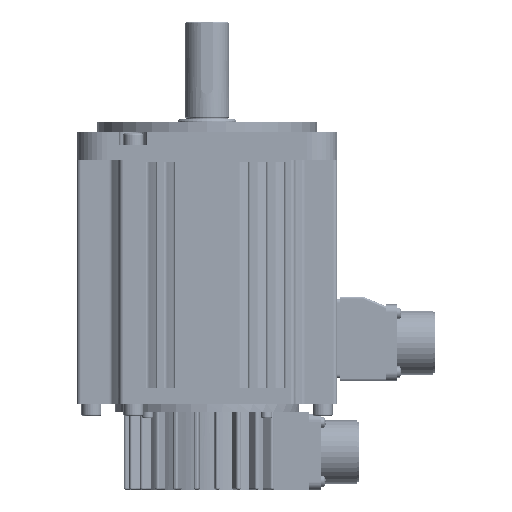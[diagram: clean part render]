
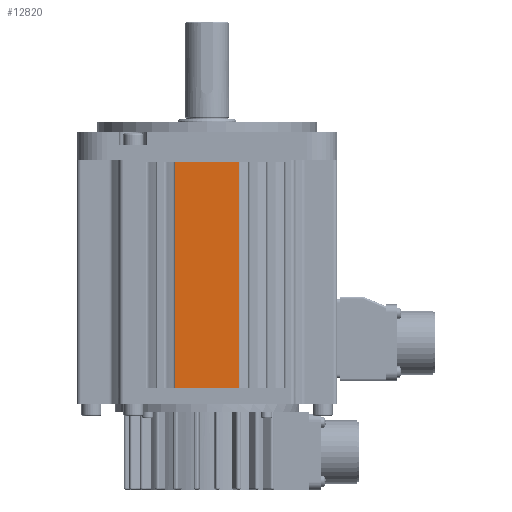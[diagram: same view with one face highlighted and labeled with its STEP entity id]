
A CAD part, left-side view. The second image highlights one B-rep face of the part: STEP entity #12820.
In plain terms, the highlighted planar face has unit normal (-1, 0, 0).
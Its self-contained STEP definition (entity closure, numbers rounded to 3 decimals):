
#9201=DIRECTION('',(0.,0.,1.));
#9202=VECTOR('',#9201,31.8);
#9203=CARTESIAN_POINT('',(-65.,0.,-15.9));
#9204=LINE('',#9203,#9202);
#9309=DIRECTION('',(0.,-1.,0.));
#9310=VECTOR('',#9309,113.);
#9311=CARTESIAN_POINT('',(-65.,113.,-15.9));
#9312=LINE('',#9311,#9310);
#9313=DIRECTION('',(0.,1.,0.));
#9314=VECTOR('',#9313,113.);
#9315=CARTESIAN_POINT('',(-65.,0.,15.9));
#9316=LINE('',#9315,#9314);
#9460=DIRECTION('',(0.,0.,1.));
#9461=VECTOR('',#9460,31.8);
#9462=CARTESIAN_POINT('',(-65.,113.,-15.9));
#9463=LINE('',#9462,#9461);
#12010=CARTESIAN_POINT('',(-65.,0.,-15.9));
#12012=VERTEX_POINT('',#12010);
#12016=CARTESIAN_POINT('',(-65.,113.,-15.9));
#12017=VERTEX_POINT('',#12016);
#12018=CARTESIAN_POINT('',(-65.,113.,15.9));
#12020=VERTEX_POINT('',#12018);
#12024=CARTESIAN_POINT('',(-65.,0.,15.9));
#12025=VERTEX_POINT('',#12024);
#12806=CARTESIAN_POINT('',(-65.,0.,-43.9));
#12807=DIRECTION('',(-1.,0.,0.));
#12808=DIRECTION('',(0.,0.,1.));
#12809=AXIS2_PLACEMENT_3D('',#12806,#12807,#12808);
#12810=PLANE('',#12809);
#12812=ORIENTED_EDGE('',*,*,#12811,.F.);
#12814=ORIENTED_EDGE('',*,*,#12813,.T.);
#12816=ORIENTED_EDGE('',*,*,#12815,.F.);
#12817=ORIENTED_EDGE('',*,*,#12724,.F.);
#12818=EDGE_LOOP('',(#12812,#12814,#12816,#12817));
#12819=FACE_OUTER_BOUND('',#12818,.F.);
#12820=ADVANCED_FACE('',(#12819),#12810,.T.);
#12724=EDGE_CURVE('',#12012,#12025,#9204,.T.);
#12811=EDGE_CURVE('',#12017,#12012,#9312,.T.);
#12813=EDGE_CURVE('',#12017,#12020,#9463,.T.);
#12815=EDGE_CURVE('',#12025,#12020,#9316,.T.);
